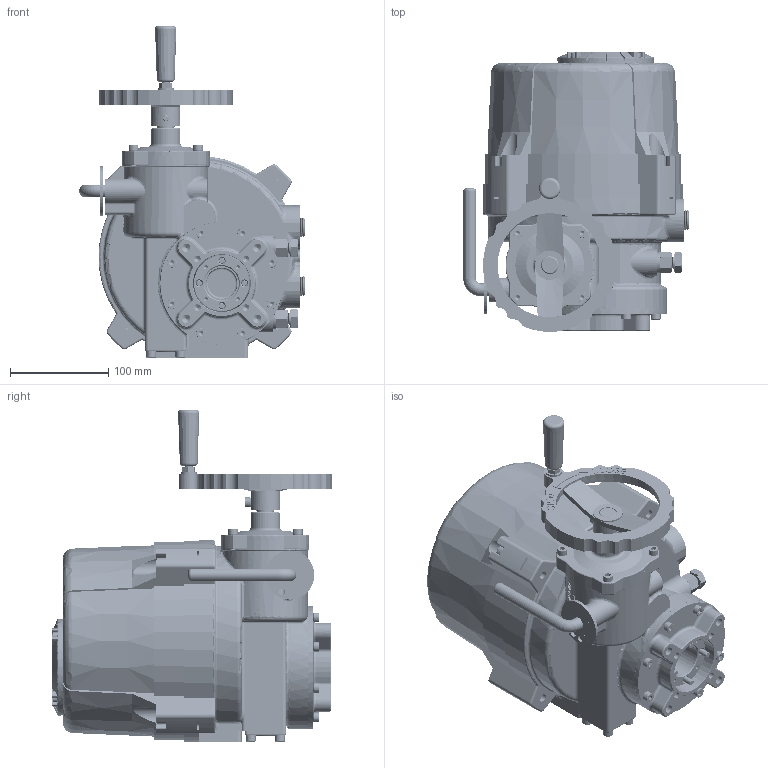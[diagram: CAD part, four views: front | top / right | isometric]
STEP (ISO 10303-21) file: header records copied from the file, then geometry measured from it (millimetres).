
FILE_DESCRIPTION (( 'STEP AP203' ), '1' );
FILE_NAME ('ITQ016010010BEX ASSEMBLY TOTAL.STEP', '2014-03-11T06:38:05', ( '' ), ( '' ), 'SwSTEP 2.0', 'SolidWorks 2011', '' );
FILE_SCHEMA (( 'CONFIG_CONTROL_DESIGN' ));
Length unit declared in the file: millimetre
Products named in the file (46): ITQ016091070A BLOCK; ITQ016020250A RING; ITQ016020260A STOPPER; ITq016020220A TORSION SPRING; slotted spring pin_ks_KS 1339 - 3 x 24; ITQ016020210A COIL SPRING; slotted spring pin_ks_KS 1339 - 4 x 28; ITQ016020090A CLUTCH B; N215-05000 WASHER; c-type retaining ring_external_ks_KS 1336 E - 13; ITQ016011 CENTER COLUMN; ITQ016020380A INDICATOR; truss cross head screw_ks_KS 1023 TC - M5 x 12-S; N209-05150 DISC SPRING; deep groove ball bearing (series 60)_ks_KS B 2023 S60 - 6006-D-C; N502-02500 ORING G25; N152-06022 PIN; ITQ016020150A 2ND WORM WHEEL; slotted spring pin_ks_KS 1339 - 3 x 22; ITQ016020160B POINT SHAFT; ITQ016020110AEX CENTER COLUMN; socket head cap screw_ks_KS 1003 - M5 x 12 x 12-S; ITQ016020390B WINDOW; ITQ016020420A WINDOW COVOR; ITQ01602006A END COVER; spring lock washer_ks_KS 1324 - M12; hexagon nut gradec_ks_KS 1012 C- M12-S; hexagon head bolt (grade c)_ks_KS 1002 C - M12 x 60 x 60-S; ITQ016020170A LEVER; socket head cap screw_ks_KS 1003 - M6 x 16 x 16-S; N353-22055 HANDLE; socket head cap screw_ks_KS 1003 - M6 x 30 x 30-S; ITQ016020040A HANDLE; ITQ016020200A HANDLE SHAFT; ITQ016020030A HANDLE COVER; socket head cap screw_ks_KS 1003 - M10 x 45 x 32-S; socket head cap screw_ks_KS 1003 - M6 x 20 x 20-S; ITQ016020050AEX; ITQ016020020DEX TOP COVER; ITQ016020010BEX BODY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
Assembly tree (88 placements, depth 3):
  ITQ016010010BEX ASSEMBLY TOTAL
    socket head cap screw_ks_KS 1003 - M6 x 16 x 16-S  x8
    ITQ01602006A END COVER
    ITQ016020200A HANDLE SHAFT
    socket head cap screw_ks_KS 1003 - M5 x 12 x 12-S  x10
    ITQ016020390B WINDOW
    socket head cap screw_ks_KS 1003 - M6 x 30 x 30-S
    socket head cap screw_ks_KS 1003 - M6 x 20 x 20-S  x8
    ITq016020220A TORSION SPRING
    ITQ016011 CENTER COLUMN
      ITQ016020380A INDICATOR
      slotted spring pin_ks_KS 1339 - 3 x 22
      N209-05150 DISC SPRING  x2
      N152-06022 PIN  x4
      socket head cap screw_ks_KS 1003 - M6 x 20 x 20-S  x4
      ITQ016020110AEX CENTER COLUMN
      N502-02500 ORING G25
      truss cross head screw_ks_KS 1023 TC - M5 x 12-S
      ITQ016020150A 2ND WORM WHEEL
      deep groove ball bearing (series 60)_ks_KS B 2023 S60 - 6006-D-C
      ITQ016020160B POINT SHAFT
    hexagon head bolt (grade c)_ks_KS 1002 C - M12 x 60 x 60-S  x2
    ITQ016020010BEX BODY
    c-type retaining ring_external_ks_KS 1336 E - 13
    ITQ016020210A COIL SPRING
    hexagon nut gradec_ks_KS 1012 C- M12-S  x2
    ITQ016020020DEX TOP COVER
    掘誠稱檜 獐お KS B 1003_KS 1003 - M5 x 16 x 16-S  x3
    socket head cap screw_ks_KS 1003 - M5 x 30 x 22-S  x2
    slotted spring pin_ks_KS 1339 - 3 x 24  x2
    ITQ016020420A WINDOW COVOR
    ITQ016020050AEX
    slotted spring pin_ks_KS 1339 - 4 x 28
    spring lock washer_ks_KS 1324 - M12  x2
    餌陝 傘お KS B 1013_KS B 1013 - M5-S  x2
    ITQ016020170A LEVER
    ITQ016020040A HANDLE
    备港嘿捞 肛勉唱荤 - 坷格场 KS B 1028_KS 1028 CupP - M20 x 20-S  x2
    ITQ016020250A RING
    socket head cap screw_ks_KS 1003 - M10 x 45 x 32-S  x4
    N508-03000 ORING-AN030
    ITQ016091070A BLOCK
    N215-05000 WASHER
    N353-22055 HANDLE
    ITQ016020030A HANDLE COVER
    ITQ016020260A STOPPER
    ITQ016020090A CLUTCH B
Bounding box: 229.5 x 284.76 x 338 mm (x, y, z)
Volume: 2436160.1 mm3; surface area: 871516.1 mm2
Topology: 89 solids, 89 shells, 9769 faces, 21636 edges, 12051 vertices
Faces by surface type: cone 3940, cylinder 3099, plane 1618, torus 581, bspline 473, sphere 58
Entity records: 212347 total; most frequent: CARTESIAN_POINT 95357, DIRECTION 23528, ORIENTED_EDGE 23036, EDGE_CURVE 11518, AXIS2_PLACEMENT_3D 9277, VERTEX_POINT 6921, EDGE_LOOP 5353, VECTOR 4974
